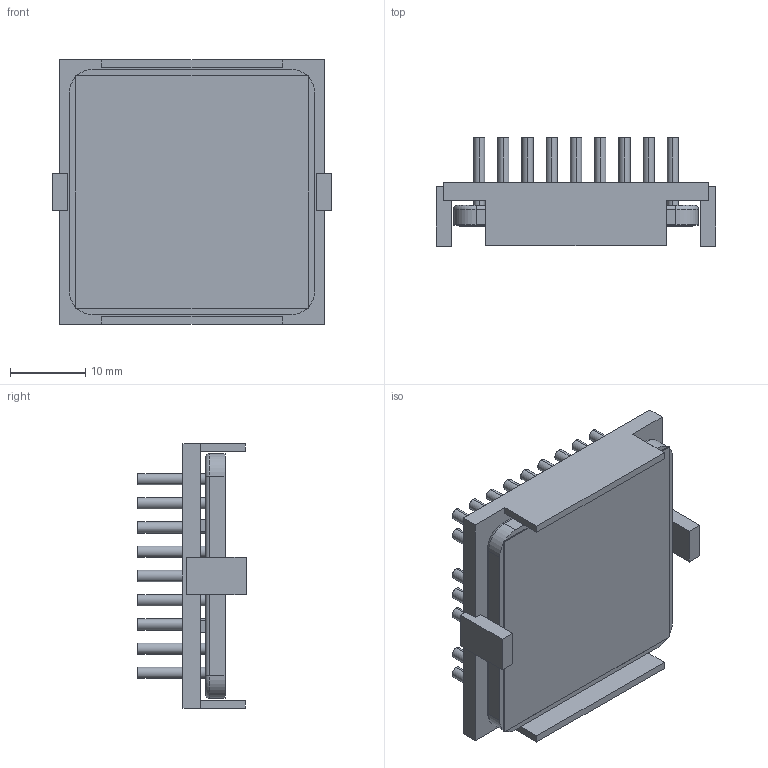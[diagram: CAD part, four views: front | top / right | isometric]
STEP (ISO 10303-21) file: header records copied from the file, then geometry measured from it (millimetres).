
FILE_DESCRIPTION (( 'STEP AP214' ), '1' );
FILE_NAME ('INM33002-12P-2.6K33.STEP', '2023-02-20T20:06:24', ( '' ), ( '' ), 'SwSTEP 2.0', 'SolidWorks 2020', '' );
FILE_SCHEMA (( 'AUTOMOTIVE_DESIGN' ));
Length unit declared in the file: inch
Products named in the file (1): INM33002-12P-2.6K33
Bounding box: 37.2 x 14.4 x 35.2 mm (x, y, z)
Volume: 5589.3 mm3; surface area: 9936.7 mm2
Topology: 3 solids, 3 shells, 297 faces, 646 edges, 428 vertices
Faces by surface type: cylinder 154, plane 139, torus 4
Entity records: 12155 total; most frequent: DIRECTION 1554, CARTESIAN_POINT 1372, ORIENTED_EDGE 1292, EDGE_CURVE 646, AXIS2_PLACEMENT_3D 610, VERTEX_POINT 428, EDGE_LOOP 372, LINE 334
